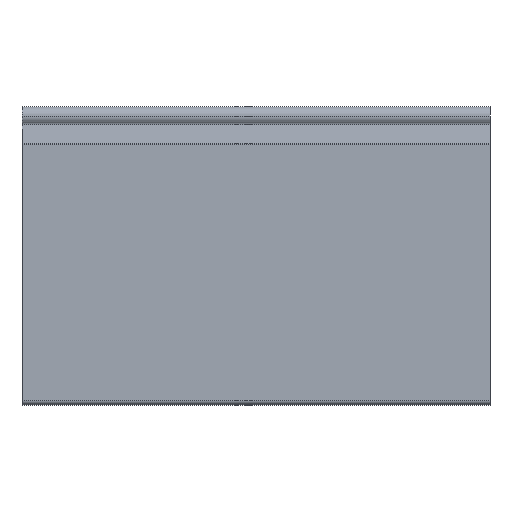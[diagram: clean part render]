
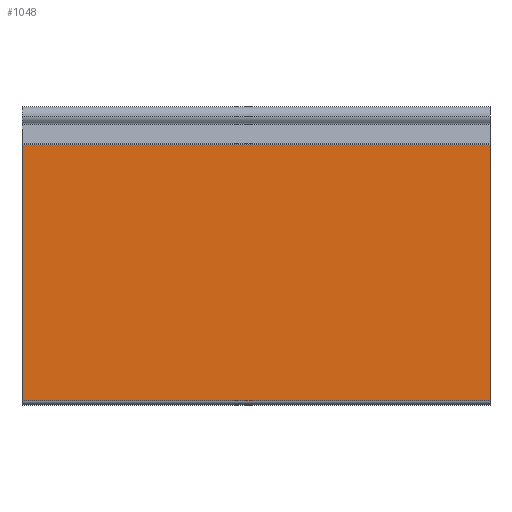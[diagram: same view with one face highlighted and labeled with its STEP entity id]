
A CAD part, top view. The second image highlights one B-rep face of the part: STEP entity #1048.
In plain terms, the highlighted planar face has unit normal (0, 0, 1).
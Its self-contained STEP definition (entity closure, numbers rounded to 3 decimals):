
#129 = VECTOR ( 'NONE', #587, 1000. ) ;
#130 = LINE ( 'NONE', #602, #156 ) ;
#134 = LINE ( 'NONE', #586, #129 ) ;
#156 = VECTOR ( 'NONE', #611, 1000. ) ;
#158 = LINE ( 'NONE', #612, #159 ) ;
#159 = VECTOR ( 'NONE', #613, 1000. ) ;
#235 = VERTEX_POINT ( 'NONE', #304 ) ;
#246 = VERTEX_POINT ( 'NONE', #315 ) ;
#259 = VERTEX_POINT ( 'NONE', #328 ) ;
#290 = VERTEX_POINT ( 'NONE', #897 ) ;
#304 = CARTESIAN_POINT ( 'NONE',  ( -100., -121.663, 4.05 ) ) ;
#315 = CARTESIAN_POINT ( 'NONE',  ( 100., -121.663, 4.05 ) ) ;
#328 = CARTESIAN_POINT ( 'NONE',  ( 100., -12.164, 4.05 ) ) ;
#345 = LINE ( 'NONE', #681, #347 ) ;
#347 = VECTOR ( 'NONE', #694, 1000. ) ;
#429 = FACE_OUTER_BOUND ( 'NONE', #1227, .T. ) ;
#483 = EDGE_CURVE ( 'NONE', #290, #235, #134, .T. ) ;
#495 = EDGE_CURVE ( 'NONE', #259, #290, #130, .T. ) ;
#496 = EDGE_CURVE ( 'NONE', #246, #235, #158, .T. ) ;
#533 = EDGE_CURVE ( 'NONE', #259, #246, #345, .T. ) ;
#586 = CARTESIAN_POINT ( 'NONE',  ( -100., -12.164, 4.05 ) ) ;
#587 = DIRECTION ( 'NONE',  ( 0., -1., 0. ) ) ;
#602 = CARTESIAN_POINT ( 'NONE',  ( 100., -12.164, 4.05 ) ) ;
#611 = DIRECTION ( 'NONE',  ( -1., 0., 0. ) ) ;
#612 = CARTESIAN_POINT ( 'NONE',  ( 100., -121.663, 4.05 ) ) ;
#613 = DIRECTION ( 'NONE',  ( -1., 0., 0. ) ) ;
#681 = CARTESIAN_POINT ( 'NONE',  ( 100., -12.164, 4.05 ) ) ;
#694 = DIRECTION ( 'NONE',  ( 0., -1., 0. ) ) ;
#813 = CARTESIAN_POINT ( 'NONE',  ( 100., -12.164, 4.05 ) ) ;
#814 = PLANE ( 'NONE',  #1286 ) ;
#823 = DIRECTION ( 'NONE',  ( 0., 0., -1. ) ) ;
#824 = DIRECTION ( 'NONE',  ( 0., 1., 0. ) ) ;
#897 = CARTESIAN_POINT ( 'NONE',  ( -100., -12.164, 4.05 ) ) ;
#1048 = ADVANCED_FACE ( 'NONE', ( #429 ), #814, .F. ) ;
#1155 = ORIENTED_EDGE ( 'NONE', *, *, #495, .T. ) ;
#1156 = ORIENTED_EDGE ( 'NONE', *, *, #533, .F. ) ;
#1157 = ORIENTED_EDGE ( 'NONE', *, *, #496, .F. ) ;
#1158 = ORIENTED_EDGE ( 'NONE', *, *, #483, .T. ) ;
#1227 = EDGE_LOOP ( 'NONE', ( #1158, #1157, #1156, #1155 ) ) ;
#1286 = AXIS2_PLACEMENT_3D ( 'NONE', #813, #823, #824 ) ;
